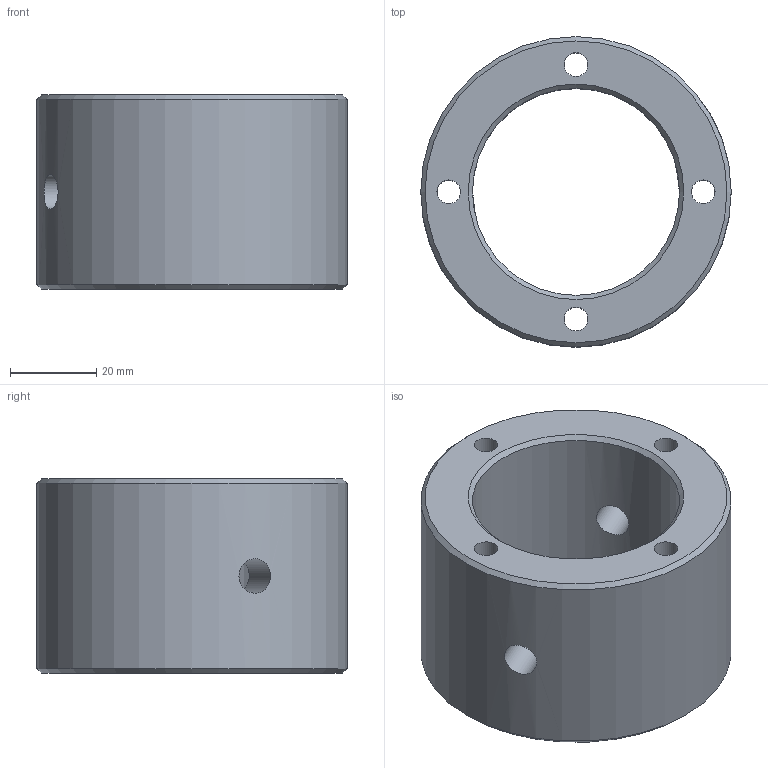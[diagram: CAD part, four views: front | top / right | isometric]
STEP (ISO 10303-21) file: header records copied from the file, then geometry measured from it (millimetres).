
FILE_DESCRIPTION(/* description */ ('SUPPORT VESSIE D''EQUILIBRAGE SUPRESSEUR','CAx-IF Rec.Pracs.---Representation and Presentation of Product Manufacturing Information (PMI)---4.0---2014-10-13'),/* implementation_level */ '2;1');
FILE_NAME(/* name */ 'vv181001-A.stp',/* time_stamp */ '2025-09-30T14:16:25+02:00',/* author */ ('PUIGSERVER B.'),/* organization */ (''),/* preprocessor_version */ 'ST-DEVELOPER v20',/* originating_system */ 'Autodesk Inventor 2025',/* authorisation */ '');
FILE_SCHEMA (('AP242_MANAGED_MODEL_BASED_3D_ENGINEERING_MIM_LF { 1 0 10303 442 1 1 4 }'));
Length unit declared in the file: millimetre
Products named in the file (1): VICTOR.V.18.10.01
Bounding box: 72 x 72 x 45 mm (x, y, z)
Volume: 95925 mm3; surface area: 24371.4 mm2
Topology: 1 solids, 1 shells, 14 faces, 38 edges, 26 vertices
Faces by surface type: cylinder 8, cone 4, plane 2
Full cylindrical faces by diameter (mm): 5.5 x4, 8 x2, 48 x1, 72 x1
Entity records: 829 total; most frequent: CARTESIAN_POINT 257, DIRECTION 108, ORIENTED_EDGE 76, AXIS2_PLACEMENT_3D 48, EDGE_CURVE 38, STYLED_ITEM 33, CIRCLE 29, EDGE_LOOP 28
